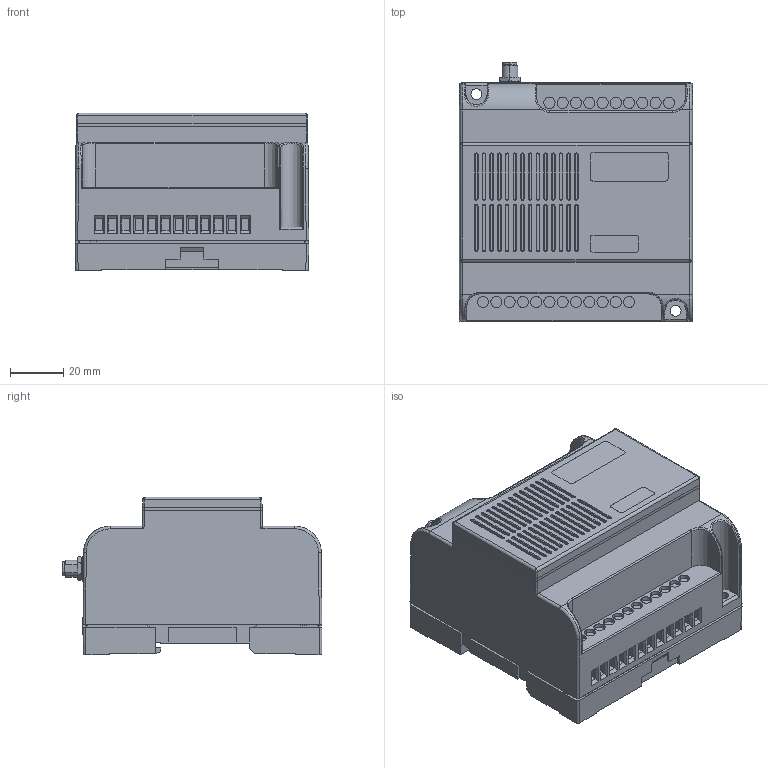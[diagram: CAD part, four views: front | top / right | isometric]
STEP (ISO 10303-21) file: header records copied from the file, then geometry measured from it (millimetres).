
FILE_DESCRIPTION (( 'STEP AP214' ), '1' );
FILE_NAME ('CMS-10R_without_antenna.STEP', '2024-04-04T12:42:14', ( '' ), ( '' ), 'SwSTEP 2.0', 'SolidWorks 2022', '' );
FILE_SCHEMA (( 'AUTOMOTIVE_DESIGN' ));
Length unit declared in the file: millimetre
Products named in the file (1): CMS-10R_without_antenna
Bounding box: 88 x 97.85 x 59.5 mm (x, y, z)
Volume: 369471.8 mm3; surface area: 52396 mm2
Topology: 1 solids, 2 shells, 982 faces, 2494 edges, 1570 vertices
Faces by surface type: plane 595, cylinder 268, torus 56, cone 33, bspline 30
Entity records: 34504 total; most frequent: CARTESIAN_POINT 7723, ORIENTED_EDGE 4976, DIRECTION 4775, EDGE_CURVE 2488, VECTOR 1723, LINE 1723, VERTEX_POINT 1570, AXIS2_PLACEMENT_3D 1526
